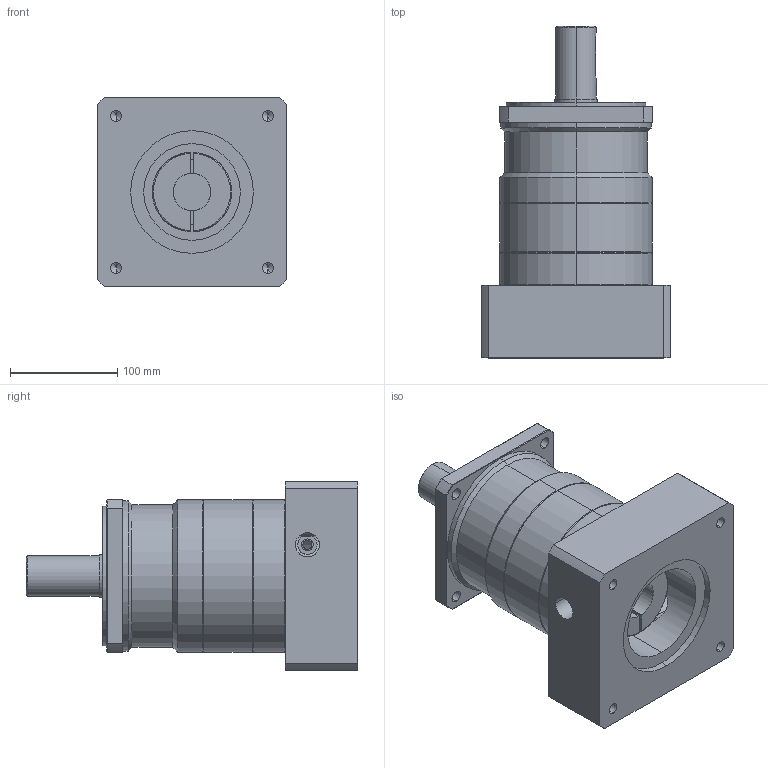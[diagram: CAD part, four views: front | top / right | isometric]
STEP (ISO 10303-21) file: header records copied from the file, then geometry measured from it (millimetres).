
FILE_DESCRIPTION (( 'STEP AP203' ), '1' );
FILE_NAME ('MF150X-L2£r114PCD£r200M12.STEP', '2014-04-16T05:31:53', ( 'KELLY' ), ( '' ), 'SwSTEP 2.0', 'SolidWorks 2012', '' );
FILE_SCHEMA (( 'CONFIG_CONTROL_DESIGN' ));
Length unit declared in the file: millimetre
Products named in the file (1): MF150X-L2｣r114PCD｣r200M12
Bounding box: 176 x 309 x 176 mm (x, y, z)
Volume: 4307687.1 mm3; surface area: 295006.7 mm2
Topology: 2 solids, 2 shells, 158 faces, 377 edges, 229 vertices
Faces by surface type: cylinder 73, plane 43, cone 36, torus 6
Entity records: 5237 total; most frequent: CARTESIAN_POINT 1456, DIRECTION 811, ORIENTED_EDGE 734, EDGE_CURVE 367, AXIS2_PLACEMENT_3D 325, VERTEX_POINT 229, EDGE_LOOP 194, CIRCLE 166
